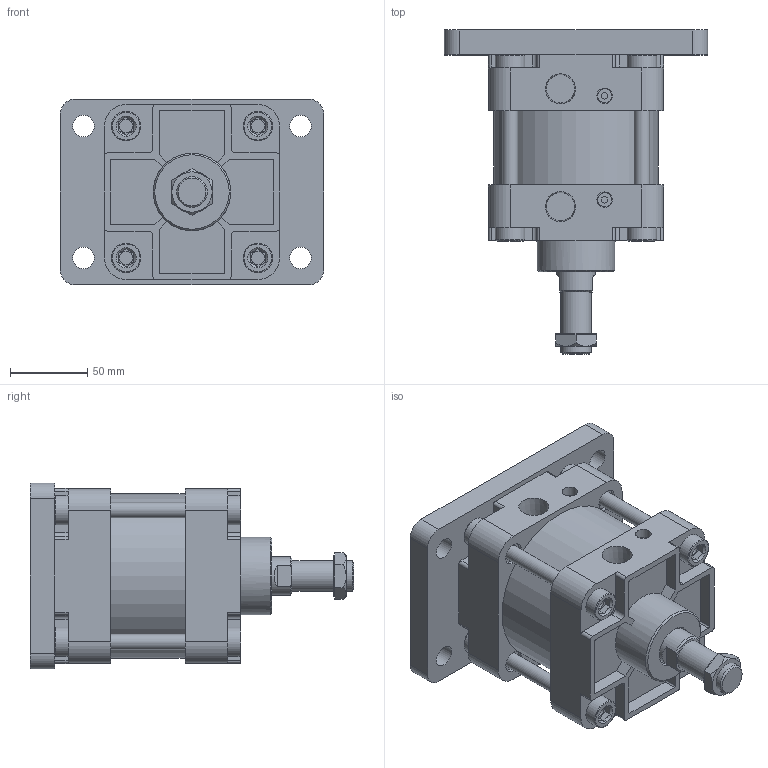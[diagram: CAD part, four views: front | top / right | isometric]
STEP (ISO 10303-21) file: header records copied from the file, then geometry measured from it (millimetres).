
FILE_DESCRIPTION(/* description */ ('Unknown'),/* implementation_level */ '2;1');
FILE_NAME(/* name */ 'WA100-0-FB',/* time_stamp */ '2026-07-17T16:57:41+08:00',/* author */ ('Unknown'),/* organization */ ('Unknown'),/* preprocessor_version */ 'ST-DEVELOPER v16.7',/* originating_system */ 'DEX',/* authorisation */ $);
FILE_SCHEMA (('CONFIG_CONTROL_DESIGN'));
Length unit declared in the file: millimetre
Products named in the file (8): WA100-0-FB; WA100_ｫeﾃ; WA100_岃搵; WA100_ｾTﾗ釈; WA100_¤ß¶b¬¡“á?; WA100_TｴU､朎; M20-1.5P-8_螺; WA100_FA
Assembly tree (10 placements, depth 2):
  WA100-0-FB
    WA100_ｫeﾃ
    WA100_岃搵
    WA100_ｾTﾗ釈
    WA100_¤ß¶b¬¡“á?
    WA100_TｴU､朎  x4
    M20-1.5P-8_螺
    WA100_FA
Bounding box: 170 x 209 x 120 mm (x, y, z)
Volume: 1522890.9 mm3; surface area: 261393.1 mm2
Topology: 10 solids, 10 shells, 380 faces, 922 edges, 615 vertices
Faces by surface type: plane 229, cylinder 120, cone 23, torus 8
Full cylindrical faces by diameter (mm): 8.5 x8, 9 x2, 10 x6, 11 x4, 14 x12, 14.2 x8, 17 x4, 18.376 x1, 19 x8, 20 x1, 25 x2, 26 x1, 50 x1, 51 x1, 99.5 x1, 100 x3, 106 x1
Entity records: 10034 total; most frequent: CARTESIAN_POINT 1500, DIRECTION 1426, ORIENTED_EDGE 1272, EDGE_CURVE 636, AXIS2_PLACEMENT_3D 526, VERTEX_POINT 452, EDGE_LOOP 404, FACE_BOUND 404
